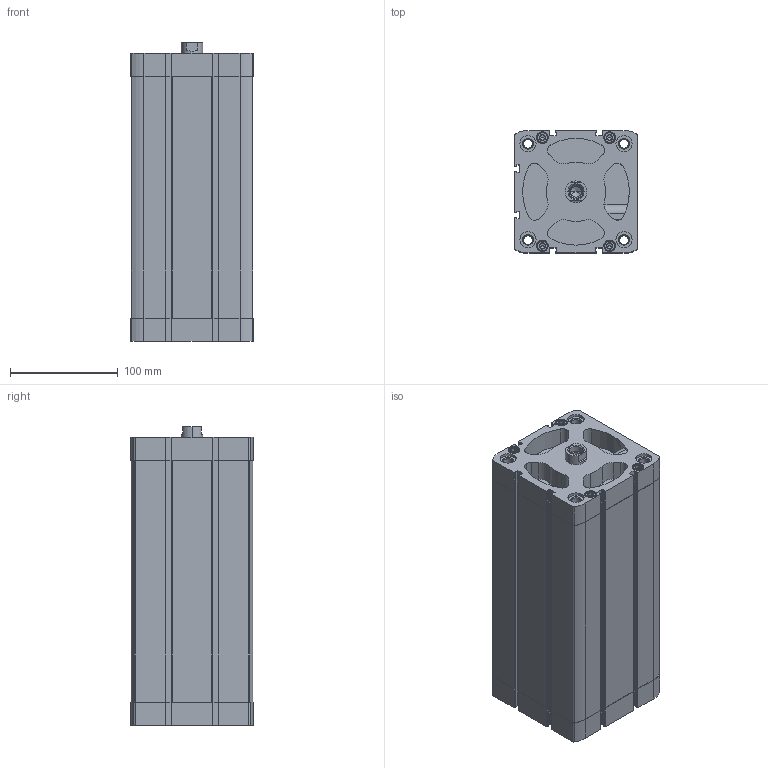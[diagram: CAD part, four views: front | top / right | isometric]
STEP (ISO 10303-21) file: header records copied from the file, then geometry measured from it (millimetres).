
FILE_DESCRIPTION (( 'STEP AP203' ), '1' );
FILE_NAME ('CCN100-200F.STEP', '2020-06-05T18:15:21', ( '' ), ( '' ), 'SwSTEP 2.0', 'SolidWorks 2019', '' );
FILE_SCHEMA (( 'CONFIG_CONTROL_DESIGN' ));
Length unit declared in the file: millimetre
Products named in the file (1): CCN100-200F
Bounding box: 113.5 x 113.5 x 276.8 mm (x, y, z)
Volume: 1629789.4 mm3; surface area: 340926.5 mm2
Topology: 2 solids, 2 shells, 628 faces, 1631 edges, 1043 vertices
Faces by surface type: plane 284, cylinder 270, cone 74
Entity records: 20342 total; most frequent: CARTESIAN_POINT 4507, DIRECTION 3451, ORIENTED_EDGE 3226, EDGE_CURVE 1613, AXIS2_PLACEMENT_3D 1281, VERTEX_POINT 1043, LINE 889, VECTOR 889
